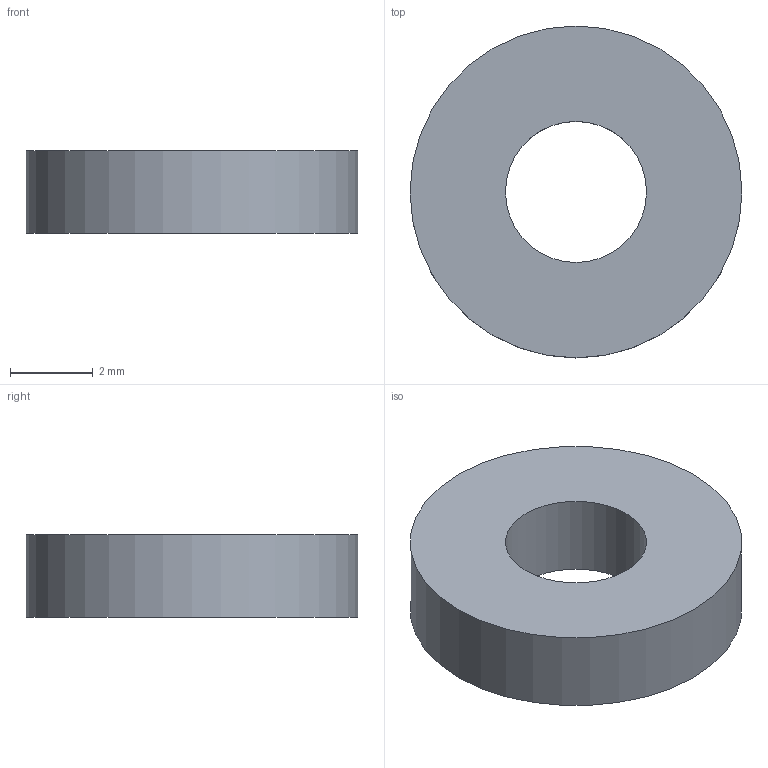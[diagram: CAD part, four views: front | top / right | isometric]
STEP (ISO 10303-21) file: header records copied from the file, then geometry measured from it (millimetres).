
FILE_DESCRIPTION(('Open CASCADE Model'),'2;1');
FILE_NAME('Open CASCADE Shape Model','2026-10-02T07:52:38',('Author'),( 'Open CASCADE'),'Open CASCADE STEP processor 7.8','Open CASCADE 7.8' ,'Unknown');
FILE_SCHEMA(('AUTOMOTIVE_DESIGN { 1 0 10303 214 1 1 1 1 }'));
Length unit declared in the file: millimetre
Products named in the file (1): Open CASCADE STEP translator 7.8 9
Bounding box: 8 x 8 x 2 mm (x, y, z)
Volume: 82.4 mm3; surface area: 154 mm2
Topology: 1 solids, 1 shells, 4 faces, 6 edges, 4 vertices
Faces by surface type: cylinder 2, plane 2
Full cylindrical faces by diameter (mm): 3.4 x1, 8 x1
Entity records: 186 total; most frequent: DIRECTION 32, CARTESIAN_POINT 27, ORIENTED_EDGE 12, PCURVE 12, DEFINITIONAL_REPRESENTATION 12, LINE 10, VECTOR 10, AXIS2_PLACEMENT_3D 9
